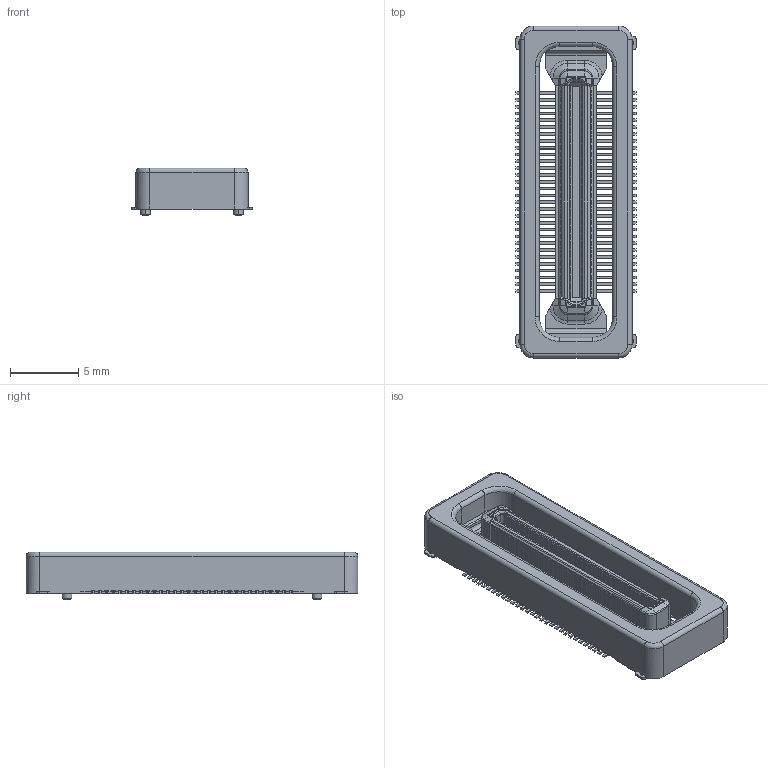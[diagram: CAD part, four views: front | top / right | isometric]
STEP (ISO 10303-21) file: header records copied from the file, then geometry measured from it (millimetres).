
FILE_DESCRIPTION (( 'STEP AP214' ), '1' );
FILE_NAME ('14_5655_060_001_829+T.STEP', '2019-07-11T02:07:45', ( '' ), ( '' ), 'SwSTEP 2.0', 'SolidWorks 2017', '' );
FILE_SCHEMA (( 'AUTOMOTIVE_DESIGN' ));
Length unit declared in the file: millimetre
Products named in the file (1): 14_5655_060_001_829+T
Bounding box: 8.8 x 24.3 x 3.5 mm (x, y, z)
Volume: 359.5 mm3; surface area: 903.7 mm2
Topology: 1 solids, 1 shells, 2417 faces, 7001 edges, 4643 vertices
Faces by surface type: plane 1709, cylinder 648, bspline 44, cone 16
Entity records: 80288 total; most frequent: CARTESIAN_POINT 15738, ORIENTED_EDGE 14002, DIRECTION 12821, EDGE_CURVE 7001, LINE 5345, VECTOR 5345, VERTEX_POINT 4643, AXIS2_PLACEMENT_3D 3738
